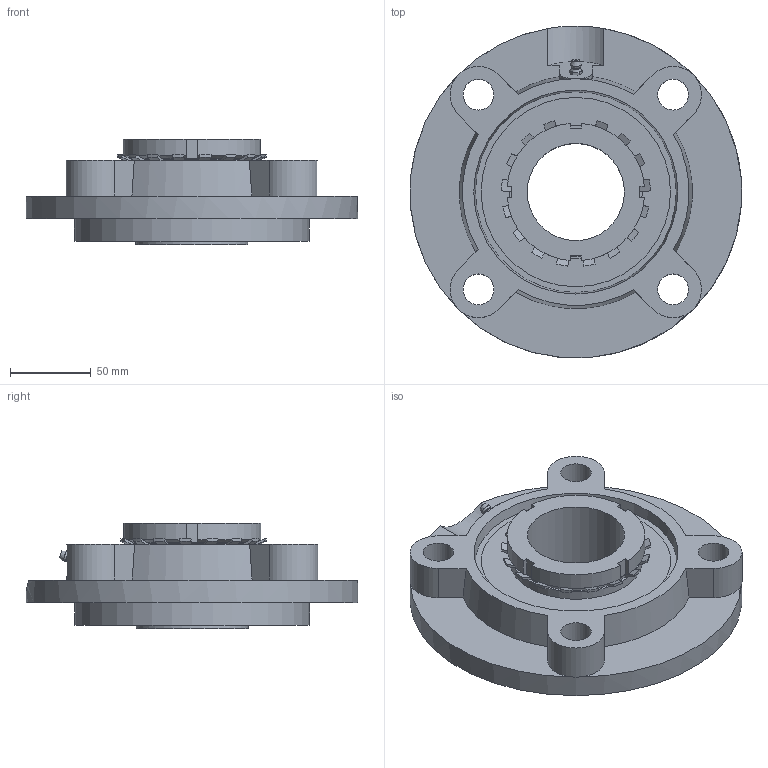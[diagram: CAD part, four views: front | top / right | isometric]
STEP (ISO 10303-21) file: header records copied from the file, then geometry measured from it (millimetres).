
FILE_DESCRIPTION((''),'2;1');
FILE_NAME('\\Ts-tgl068\j-cad-d-base\00.3DCADデータ作成フォルダ\02.フランジ形\UKFC200\UKFC213+H.stp','2014-11-20T16:43:01',('btec_1106_2'),(''),'Autodesk Inventor 2012','Autodesk Inventor 2012','');
FILE_SCHEMA(('AUTOMOTIVE_DESIGN { 1 0 10303 214 1 1 1 1 }'));
Length unit declared in the file: millimetre
Products named in the file (4): UKFC200+H; FC213; UK213; GU1
Assembly tree (3 placements, depth 2):
  UKFC200+H
    FC213
    UK213
    GU1
Bounding box: 204.76 x 204.84 x 65 mm (x, y, z)
Volume: 791265 mm3; surface area: 153343.4 mm2
Topology: 3 solids, 3 shells, 207 faces, 524 edges, 332 vertices
Faces by surface type: plane 88, cone 57, cylinder 54, sphere 4, bspline 2, torus 2
Full cylindrical faces by diameter (mm): 5.359 x1, 6.35 x1, 19 x4, 60 x1, 65 x1, 82.1 x2, 145 x1, 205 x1
Entity records: 6172 total; most frequent: CARTESIAN_POINT 1367, ORIENTED_EDGE 986, DIRECTION 985, EDGE_CURVE 493, AXIS2_PLACEMENT_3D 401, VERTEX_POINT 320, EDGE_LOOP 253, FACE_OUTER_BOUND 207
